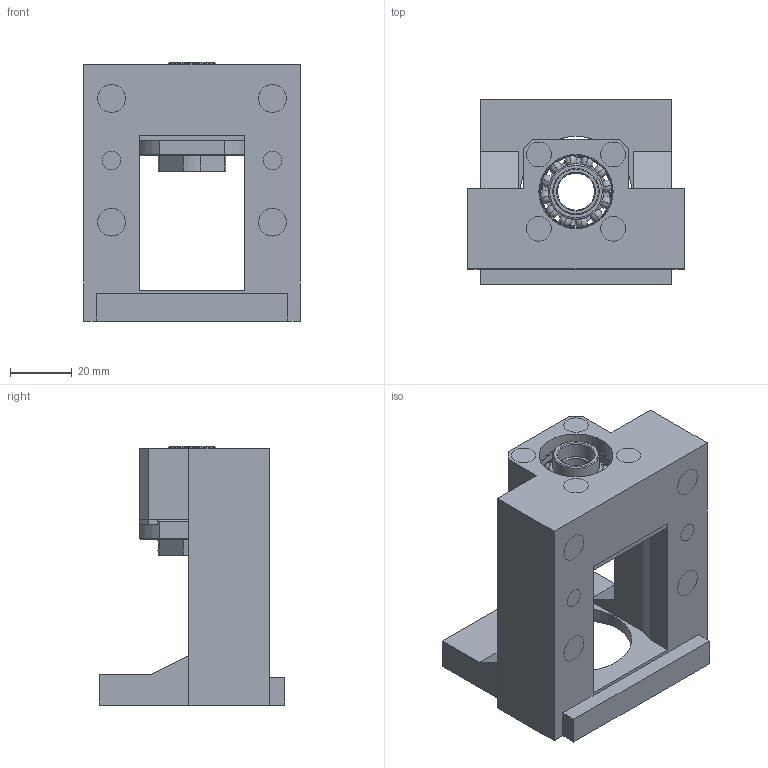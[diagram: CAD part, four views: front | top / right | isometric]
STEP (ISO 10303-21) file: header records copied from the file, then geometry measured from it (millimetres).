
FILE_DESCRIPTION(/* description */ (''),/* implementation_level */ '2;1');
FILE_NAME(/* name */ 'M60DP-EK12-C.stp',/* time_stamp */ '2017-07-03T09:37:39+08:00',/* author */ (''),/* organization */ (''),/* preprocessor_version */ 'ST-DEVELOPER v15',/* originating_system */ 'SIEMENS PLM Software NX 9.0',/* authorisation */ '');
FILE_SCHEMA (('CONFIG_CONTROL_DESIGN'));
Length unit declared in the file: millimetre
Products named in the file (5): MBCE12-DP_2; MBCE12-DP_1; MBCE12-DP; MBCE12-DP_4; MBCE12-DP_3
Assembly tree (6 placements, depth 2):
  MBCE12-DP_3
    MBCE12-DP_4  x2
    MBCE12-DP
    MBCE12-DP_1  x2
    MBCE12-DP_2
Bounding box: 70 x 60 x 83.5 mm (x, y, z)
Volume: 219254.2 mm3; surface area: 72383.5 mm2
Topology: 34 solids, 34 shells, 275 faces, 691 edges, 402 vertices
Faces by surface type: plane 111, cylinder 64, sphere 48, cone 32, torus 20
Full cylindrical faces by diameter (mm): 3.3 x9, 4.5 x4, 6 x2, 8 x6, 9 x4, 12 x5, 14 x4, 15 x2, 17 x1, 18 x4, 24 x3, 28 x5, 36 x2, 50 x2
Entity records: 6480 total; most frequent: CARTESIAN_POINT 1116, DIRECTION 1012, ORIENTED_EDGE 820, EDGE_CURVE 410, AXIS2_PLACEMENT_3D 394, EDGE_LOOP 356, VERTEX_POINT 318, FACE_BOUND 251
